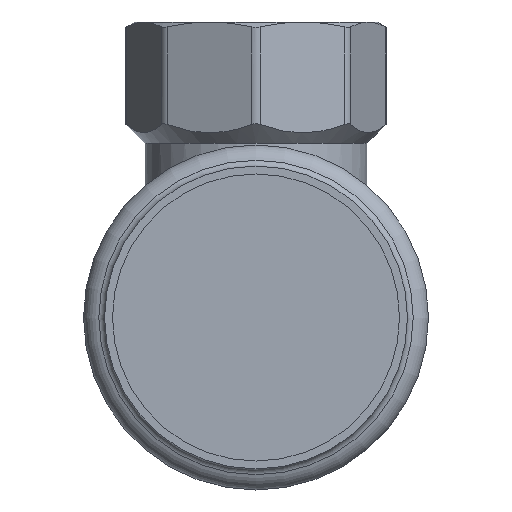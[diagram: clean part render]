
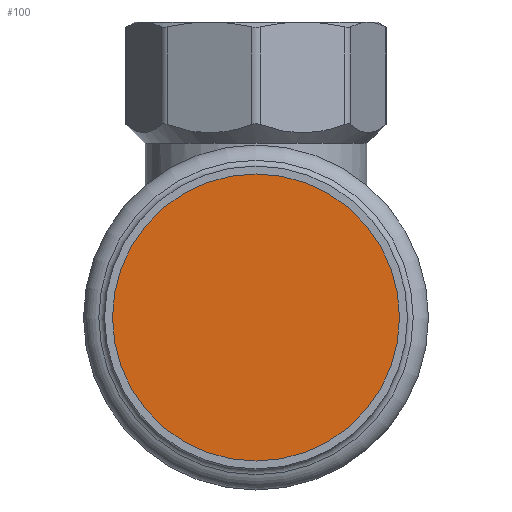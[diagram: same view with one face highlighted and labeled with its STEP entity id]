
A CAD part, front view. The second image highlights one B-rep face of the part: STEP entity #100.
In plain terms, the highlighted planar face has unit normal (0, -1, 0).
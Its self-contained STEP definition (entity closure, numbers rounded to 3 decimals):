
#100=ADVANCED_FACE('',(#477),#479,.T.);
#477=FACE_BOUND('',#478,.T.);
#478=EDGE_LOOP('',(#671));
#479=PLANE('',#480);
#480=AXIS2_PLACEMENT_3D('',#481,#482,#483);
#481=CARTESIAN_POINT('',(0.,-67.792,0.));
#482=DIRECTION('',(0.,-1.,0.));
#483=DIRECTION('',(0.,0.,-1.));
#671=ORIENTED_EDGE('',*,*,#762,.T.);
#762=EDGE_CURVE('',#918,#918,#919,.F.);
#918=VERTEX_POINT('',#2652);
#919=CIRCLE('',#2653,27.2);
#2652=CARTESIAN_POINT('',(0.,-67.792,27.2));
#2653=AXIS2_PLACEMENT_3D('',#2654,#2655,#2656);
#2654=CARTESIAN_POINT('',(0.,-67.792,0.));
#2655=DIRECTION('',(0.,1.,0.));
#2656=DIRECTION('',(0.,0.,1.));
